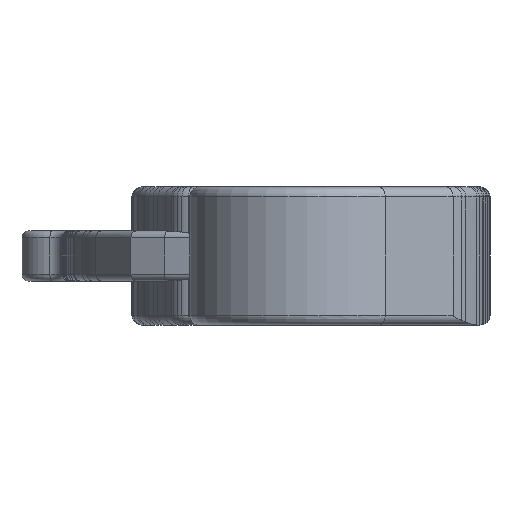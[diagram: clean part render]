
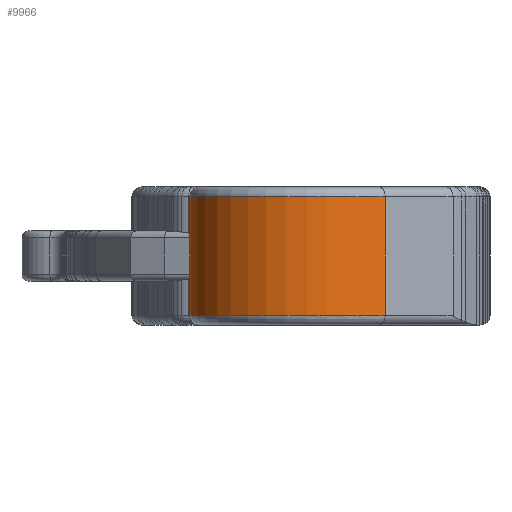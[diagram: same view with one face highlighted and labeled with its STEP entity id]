
A CAD part, left-side view. The second image highlights one B-rep face of the part: STEP entity #9966.
In plain terms, the highlighted cylindrical face has radius 37.275 mm (diameter 74.551 mm), a partial arc.
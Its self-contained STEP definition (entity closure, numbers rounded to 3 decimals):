
#292 = DIRECTION ( 'NONE',  ( 0., 0., 1. ) ) ;
#422 = CARTESIAN_POINT ( 'NONE',  ( 28.675, 24.972, -17.7 ) ) ;
#788 = EDGE_CURVE ( 'NONE', #10822, #4408, #3824, .T. ) ;
#1408 = CIRCLE ( 'NONE', #4013, 37.275 ) ;
#1980 = DIRECTION ( 'NONE',  ( 0., 0., -1. ) ) ;
#2255 = EDGE_CURVE ( 'NONE', #5476, #4408, #9207, .T. ) ;
#2271 = ORIENTED_EDGE ( 'NONE', *, *, #788, .F. ) ;
#2631 = VECTOR ( 'NONE', #14280, 1000. ) ;
#3256 = EDGE_CURVE ( 'NONE', #11735, #5476, #5557, .T. ) ;
#3323 = EDGE_LOOP ( 'NONE', ( #2271, #13030, #6996, #8622 ) ) ;
#3485 = VECTOR ( 'NONE', #6200, 1000. ) ;
#3802 = EDGE_CURVE ( 'NONE', #10822, #11735, #1408, .T. ) ;
#3824 = LINE ( 'NONE', #8363, #3485 ) ;
#3904 = CYLINDRICAL_SURFACE ( 'NONE', #11857, 37.275 ) ;
#3988 = CARTESIAN_POINT ( 'NONE',  ( -29.526, -21.392, 17.7 ) ) ;
#4013 = AXIS2_PLACEMENT_3D ( 'NONE', #6943, #292, #8064 ) ;
#4408 = VERTEX_POINT ( 'NONE', #6276 ) ;
#4602 = FACE_OUTER_BOUND ( 'NONE', #3323, .T. ) ;
#5390 = CARTESIAN_POINT ( 'NONE',  ( -29.526, -21.392, -20.7 ) ) ;
#5476 = VERTEX_POINT ( 'NONE', #3988 ) ;
#5557 = LINE ( 'NONE', #5390, #2631 ) ;
#5615 = CARTESIAN_POINT ( 'NONE',  ( 1., 0., -20.7 ) ) ;
#5622 = CARTESIAN_POINT ( 'NONE',  ( -29.526, -21.392, -17.7 ) ) ;
#6200 = DIRECTION ( 'NONE',  ( 0., 0., 1. ) ) ;
#6276 = CARTESIAN_POINT ( 'NONE',  ( 28.675, 24.972, 17.7 ) ) ;
#6735 = DIRECTION ( 'NONE',  ( 1., 0., 0. ) ) ;
#6943 = CARTESIAN_POINT ( 'NONE',  ( 1., 0., -17.7 ) ) ;
#6996 = ORIENTED_EDGE ( 'NONE', *, *, #3256, .T. ) ;
#8064 = DIRECTION ( 'NONE',  ( 1., 0., 0. ) ) ;
#8363 = CARTESIAN_POINT ( 'NONE',  ( 28.675, 24.972, -20.7 ) ) ;
#8619 = CARTESIAN_POINT ( 'NONE',  ( 1., 0., 17.7 ) ) ;
#8622 = ORIENTED_EDGE ( 'NONE', *, *, #2255, .T. ) ;
#9207 = CIRCLE ( 'NONE', #10393, 37.275 ) ;
#9703 = DIRECTION ( 'NONE',  ( 1., 0., 0. ) ) ;
#9966 = ADVANCED_FACE ( 'NONE', ( #4602 ), #3904, .T. ) ;
#10393 = AXIS2_PLACEMENT_3D ( 'NONE', #8619, #1980, #9703 ) ;
#10822 = VERTEX_POINT ( 'NONE', #422 ) ;
#11735 = VERTEX_POINT ( 'NONE', #5622 ) ;
#11857 = AXIS2_PLACEMENT_3D ( 'NONE', #5615, #12239, #6735 ) ;
#12239 = DIRECTION ( 'NONE',  ( 0., 0., 1. ) ) ;
#13030 = ORIENTED_EDGE ( 'NONE', *, *, #3802, .T. ) ;
#14280 = DIRECTION ( 'NONE',  ( 0., 0., 1. ) ) ;
